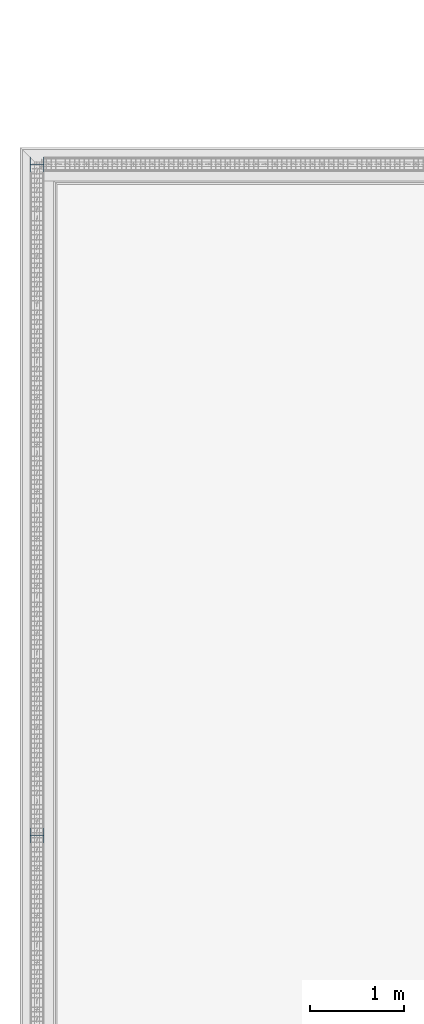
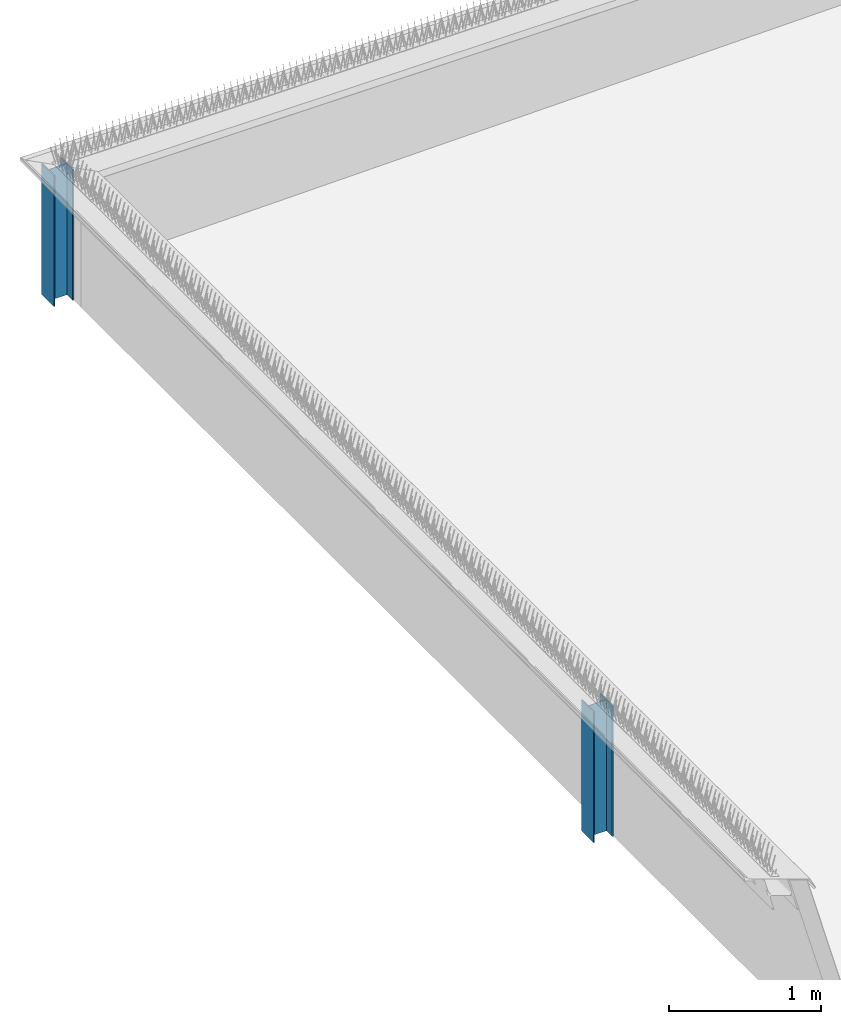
# One storey, part 13 of 81: 2 columns.
"""IFC2X3 building model written with IfcOpenShell, lengths in millimetres."""

from ifc_helpers import new_model, entity, si_unit, converted_unit, derived_unit, money_unit, direction, frame, origin_with_axes, place, context, subcontext, project, spatial, faceted_brep, material, type_object, element, save


model = new_model("IFC2X3")

# Units and contexts
model_context = context("Model", 3, precision=0.01, world=origin_with_axes(), true_north=direction((0.0, 1.0)))
body_context = subcontext(model_context, "Body", "Model", "MODEL_VIEW")
ifc_project = project(units=[si_unit("LENGTHUNIT", "METRE", prefix="MILLI"), si_unit("AREAUNIT", "SQUARE_METRE"), si_unit("VOLUMEUNIT", "CUBIC_METRE"), converted_unit("PLANEANGLEUNIT", "DEGREE", entity("IfcPlaneAngleMeasure", 0.0174532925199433), si_unit("PLANEANGLEUNIT", "RADIAN"), dimensions=[0, 0, 0, 0, 0, 0, 0]), money_unit("EUR"), converted_unit("TIMEUNIT", "Year", entity("IfcTimeMeasure", 31557600.0), si_unit("TIMEUNIT", "SECOND"), dimensions=[0, 0, 1, 0, 0, 0, 0]), si_unit("MASSUNIT", "GRAM", prefix="KILO"), si_unit("THERMODYNAMICTEMPERATUREUNIT", "DEGREE_CELSIUS"), si_unit("LUMINOUSINTENSITYUNIT", "LUMEN"), si_unit("ENERGYUNIT", "JOULE", prefix="MEGA"), derived_unit("THERMALCONDUCTANCEUNIT", [(si_unit("POWERUNIT", "WATT"), 1), (si_unit("LENGTHUNIT", "METRE"), -1), (si_unit("THERMODYNAMICTEMPERATUREUNIT", "KELVIN"), -1)]), derived_unit("SPECIFICHEATCAPACITYUNIT", [(si_unit("ENERGYUNIT", "JOULE"), 1), (si_unit("MASSUNIT", "GRAM", prefix="KILO"), -1), (si_unit("THERMODYNAMICTEMPERATUREUNIT", "KELVIN"), -1)]), derived_unit("MASSDENSITYUNIT", [(si_unit("MASSUNIT", "GRAM", prefix="KILO"), 1), (si_unit("VOLUMEUNIT", "CUBIC_METRE"), -1)])], contexts=[model_context])

# Site, building, storey
site_placement = place(None, origin_with_axes())
site = spatial("IfcSite", under=ifc_project, at=site_placement, Name="Site", CompositionType="ELEMENT")
building_placement = place(site_placement, origin_with_axes())
building = spatial("IfcBuilding", under=site, at=building_placement, Name="Naam gebouw", CompositionType="ELEMENT")
storey_placement = place(building_placement, frame((0.0, 0.0, 15320.0), z_axis=(0.0, 0.0, 1.0), x_axis=(1.0, 0.0, 0.0)))
storey = spatial("IfcBuildingStorey", under=building, at=storey_placement, Name="01 dak", CompositionType="ELEMENT", Elevation=15320.0)

# Columns
ifc_material = material(Name="Metaal - Staal C")
column_type = type_object("IfcColumnType", Name="HEA160 160 x 152", PredefinedType="COLUMN")
for number, where, z_axis, x_axis, name in (
    (1, (25376.0, 87600.00000000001, -400.0393597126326), (0.0, 0.0, 1.0), (0.0, 1.0, 0.0), "HEA160"),
    (2, (25376.0, 94720.00000000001, -400.0393597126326), (0.0, 0.0, 1.0), (0.0, 1.0, 0.0), "HEA160"),
):
    element("IfcColumn", number, at=place(storey_placement, frame(where, z_axis=z_axis, x_axis=x_axis)), inside=storey, type_object=column_type, material=ifc_material, Name=name, ObjectType="COLUMN", context=body_context, shape_type="Brep", body=[
        faceted_brep([(-79.9999999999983, 76.00000000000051, 1055.0), (-79.9999999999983, 76.00000000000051, 0.0), (-79.9999999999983, 67.00000000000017, 0.0), (-79.9999999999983, 67.00000000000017, 1055.0), (79.9999999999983, 76.00000000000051, 1055.0), (79.9999999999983, 76.00000000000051, 0.0), (79.9999999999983, 67.00000000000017, 0.0), (3.000000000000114, 67.00000000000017, 0.0), (3.000000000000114, -67.00000000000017, 0.0), (79.9999999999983, -67.00000000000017, 0.0), (79.9999999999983, -76.00000000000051, 0.0), (-79.9999999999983, -76.00000000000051, 0.0), (-79.9999999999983, -67.00000000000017, 0.0), (-3.000000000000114, -67.00000000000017, 0.0), (-3.000000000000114, 67.00000000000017, 0.0), (-3.000000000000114, 67.00000000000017, 1055.0), (-3.000000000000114, -67.00000000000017, 1055.0), (-79.9999999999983, -67.00000000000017, 1055.0), (-79.9999999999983, -76.00000000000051, 1055.0), (79.9999999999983, -76.00000000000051, 1055.0), (79.9999999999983, -67.00000000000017, 1055.0), (3.000000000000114, -67.00000000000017, 1055.0), (3.000000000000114, 67.00000000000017, 1055.0), (79.9999999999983, 67.00000000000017, 1055.0)], [[[0, 1, 2, 3]], [[4, 5, 1, 0]], [[2, 1, 5, 6, 7, 8, 9, 10, 11, 12, 13, 14]], [[3, 2, 14, 15]], [[4, 0, 3, 15, 16, 17, 18, 19, 20, 21, 22, 23]], [[23, 6, 5, 4]], [[22, 7, 6, 23]], [[21, 8, 7, 22]], [[20, 9, 8, 21]], [[19, 10, 9, 20]], [[18, 11, 10, 19]], [[17, 12, 11, 18]], [[16, 13, 12, 17]], [[15, 14, 13, 16]]]),
    ])

save(model, "model.ifc")
